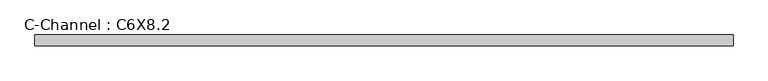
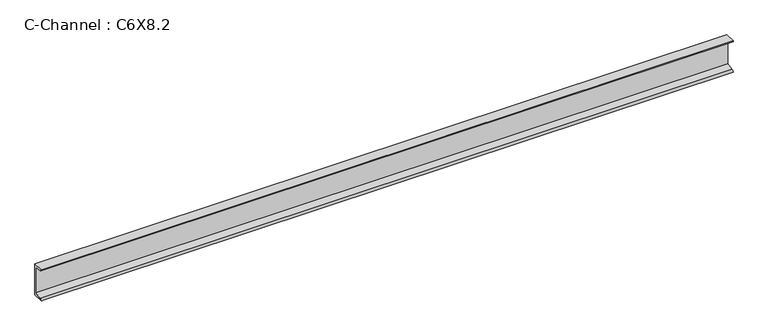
"""IFC4 building model written with IfcOpenShell, lengths in millimetres: beam geometry, C-Channel : C6X8.2."""

from ifc_helpers import new_model, si_unit, point, frame, frame_2d, origin, place, context, project, spatial, polyline, circle_curve, trimmed, segment, composite_curve, outline, extrude, source, transform, mapped, element, save


def c_channel_c6x8_2_7d483b76(model_context):
    return source(origin(), model_context, "Body", "SweptSolid", [
        extrude(outline(composite_curve([segment(polyline([(13.0048, 76.2), (13.0048, -76.2), (-35.7632, -76.2)]), True, "CONTINUOUS"), segment(trimmed(circle_curve(frame_2d((-27.051, -76.2)), 8.7122), [point((-35.7632, -76.2))], [point((-27.051, -67.4878))], False, "CARTESIAN"), True, "CONTINUOUS"), segment(polyline([(-27.051, -67.4878), (7.9248, -61.9481775), (7.9248, 61.9481775), (-27.051, 67.4878)]), True, "CONTINUOUS"), segment(trimmed(circle_curve(frame_2d((-27.051, 76.2)), 8.7122), [point((-27.051, 67.4878))], [point((-35.7632, 76.2))], False, "CARTESIAN"), True, "CONTINUOUS"), segment(polyline([(-35.7632, 76.2), (13.0048, 76.2)]), True, "CONTINUOUS")], self_intersect=False)), frame((-1520.1380469, 0.0, 0.0), z_axis=(1.0, 0.0, 0.0), x_axis=(0.0, 1.0, 0.0)), (0.0, 0.0, 1.0), 3187.5221111),
    ])


if __name__ == "__main__":
    model = new_model("IFC4")
    model_context = context("Model", 3, world=origin())
    ifc_project = project(units=[si_unit("LENGTHUNIT", "METRE", prefix="MILLI")], contexts=[model_context])
    site = spatial("IfcSite", under=ifc_project)
    building = spatial("IfcBuilding", under=site)
    placement = place(None, origin())
    c_channel_c6x8_2_shape = c_channel_c6x8_2_7d483b76(model_context)
    element("IfcBeam", 1, ObjectType="C-Channel : C6X8.2", at=placement, inside=building, context=model_context, shape_type="MappedRepresentation", body=[
        mapped(c_channel_c6x8_2_shape, transform((0.0, 0.0, 0.0), x_axis=(1.0, 0.0, 0.0), y_axis=(0.0, 1.0, 0.0), z_axis=(0.0, 0.0, 1.0))),
    ])
    save(model, "model.ifc")
